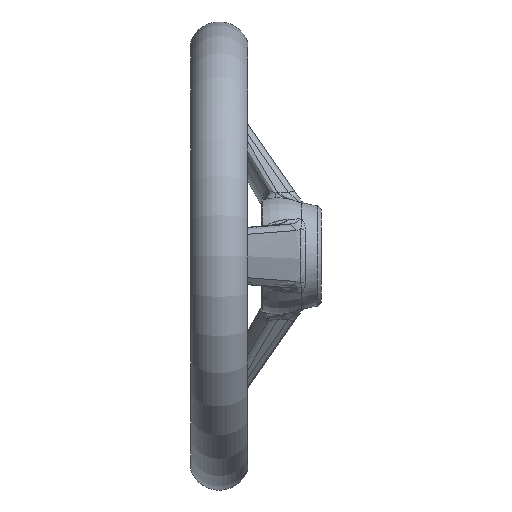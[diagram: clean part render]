
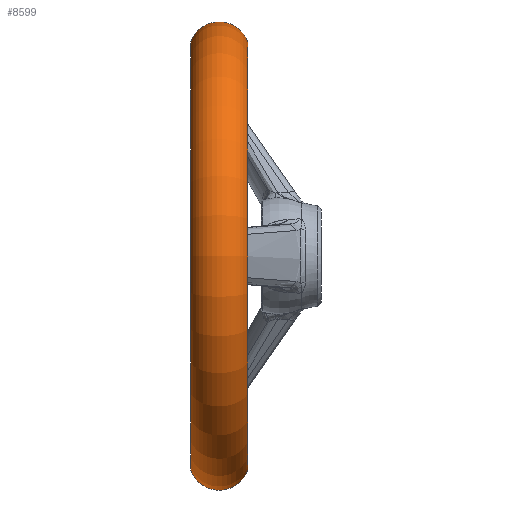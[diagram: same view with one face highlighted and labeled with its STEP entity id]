
A CAD part, left-side view. The second image highlights one B-rep face of the part: STEP entity #8599.
In plain terms, the highlighted toroidal (fillet/blend) face has major radius 60.979 mm and minor radius 9.021 mm.
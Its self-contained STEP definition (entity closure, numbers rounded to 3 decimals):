
#74 = DIRECTION ( 'NONE',  ( 1., 0., 0. ) ) ;
#283 = CARTESIAN_POINT ( 'NONE',  ( 0., 39., 0. ) ) ;
#1122 = DIRECTION ( 'NONE',  ( 0., 0., -1. ) ) ;
#1206 = ORIENTED_EDGE ( 'NONE', *, *, #6417, .F. ) ;
#1367 = CARTESIAN_POINT ( 'NONE',  ( 0., 22., -64. ) ) ;
#1704 = DIRECTION ( 'NONE',  ( 0., -1., 0. ) ) ;
#2301 = CARTESIAN_POINT ( 'NONE',  ( 0., 22., 64. ) ) ;
#2396 = DIRECTION ( 'NONE',  ( 0., 0., -1. ) ) ;
#2601 = VERTEX_POINT ( 'NONE', #2301 ) ;
#2731 = VERTEX_POINT ( 'NONE', #4063 ) ;
#2835 = FACE_OUTER_BOUND ( 'NONE', #4929, .T. ) ;
#3252 = CIRCLE ( 'NONE', #5240, 64. ) ;
#3503 = CIRCLE ( 'NONE', #9390, 64. ) ;
#4063 = CARTESIAN_POINT ( 'NONE',  ( 0., 39., -64. ) ) ;
#4071 = CARTESIAN_POINT ( 'NONE',  ( 0., 39., 64. ) ) ;
#4786 = DIRECTION ( 'NONE',  ( -1., 0., 0. ) ) ;
#4929 = EDGE_LOOP ( 'NONE', ( #1206, #10686, #9987, #5531 ) ) ;
#5012 = CARTESIAN_POINT ( 'NONE',  ( 0., 30.5, 60.979 ) ) ;
#5240 = AXIS2_PLACEMENT_3D ( 'NONE', #6649, #1704, #7469 ) ;
#5483 = VERTEX_POINT ( 'NONE', #4071 ) ;
#5531 = ORIENTED_EDGE ( 'NONE', *, *, #7787, .F. ) ;
#5854 = DIRECTION ( 'NONE',  ( 0., 0., -1. ) ) ;
#6055 = DIRECTION ( 'NONE',  ( 0., -1., 0. ) ) ;
#6313 = CIRCLE ( 'NONE', #7165, 9.021 ) ;
#6417 = EDGE_CURVE ( 'NONE', #5483, #2601, #6313, .T. ) ;
#6473 = DIRECTION ( 'NONE',  ( 0., -1., 0. ) ) ;
#6514 = CARTESIAN_POINT ( 'NONE',  ( 0., 30.5, 0. ) ) ;
#6649 = CARTESIAN_POINT ( 'NONE',  ( 0., 22., 0. ) ) ;
#6883 = EDGE_CURVE ( 'NONE', #2731, #9269, #7990, .T. ) ;
#6953 = AXIS2_PLACEMENT_3D ( 'NONE', #9726, #4786, #10543 ) ;
#6966 = TOROIDAL_SURFACE ( 'NONE', #7937, 60.979, 9.021 ) ;
#7165 = AXIS2_PLACEMENT_3D ( 'NONE', #5012, #74, #5854 ) ;
#7469 = DIRECTION ( 'NONE',  ( 0., 0., -1. ) ) ;
#7787 = EDGE_CURVE ( 'NONE', #2601, #9269, #3252, .T. ) ;
#7937 = AXIS2_PLACEMENT_3D ( 'NONE', #6514, #6473, #2396 ) ;
#7990 = CIRCLE ( 'NONE', #6953, 9.021 ) ;
#8599 = ADVANCED_FACE ( 'NONE', ( #2835 ), #6966, .T. ) ;
#8993 = EDGE_CURVE ( 'NONE', #5483, #2731, #3503, .T. ) ;
#9269 = VERTEX_POINT ( 'NONE', #1367 ) ;
#9390 = AXIS2_PLACEMENT_3D ( 'NONE', #283, #6055, #1122 ) ;
#9726 = CARTESIAN_POINT ( 'NONE',  ( 0., 30.5, -60.979 ) ) ;
#9987 = ORIENTED_EDGE ( 'NONE', *, *, #6883, .T. ) ;
#10543 = DIRECTION ( 'NONE',  ( 0., 0., 1. ) ) ;
#10686 = ORIENTED_EDGE ( 'NONE', *, *, #8993, .T. ) ;
